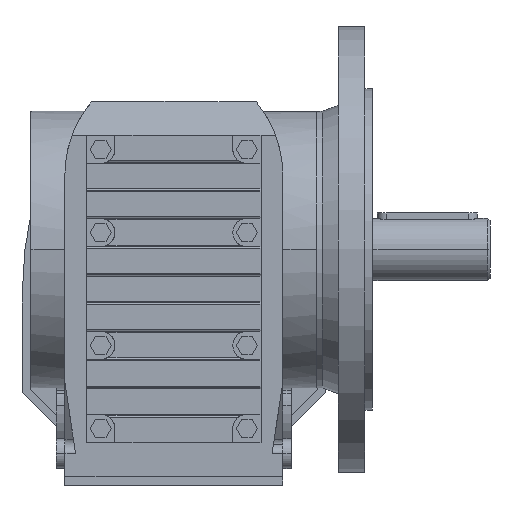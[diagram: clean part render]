
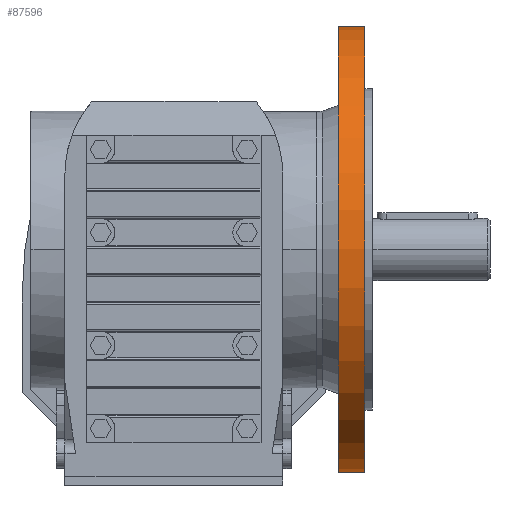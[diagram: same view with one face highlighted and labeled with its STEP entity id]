
A CAD part, top view. The second image highlights one B-rep face of the part: STEP entity #87596.
In plain terms, the highlighted cylindrical face has radius 125 mm (diameter 250 mm), a partial arc.
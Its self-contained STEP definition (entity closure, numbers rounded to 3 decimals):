
#86459 = PLANE('',#86460);
#86460 = AXIS2_PLACEMENT_3D('',#86461,#86462,#86463);
#86461 = CARTESIAN_POINT('',(107.,125.,0.));
#86462 = DIRECTION('',(-1.,0.,0.));
#86463 = DIRECTION('',(0.,-1.,0.));
#86533 = PLANE('',#86534);
#86534 = AXIS2_PLACEMENT_3D('',#86535,#86536,#86537);
#86535 = CARTESIAN_POINT('',(92.,80.776,0.));
#86536 = DIRECTION('',(1.,0.,0.));
#86537 = DIRECTION('',(0.,1.,0.));
#86935 = EDGE_CURVE('',#86936,#86938,#86940,.T.);
#86936 = VERTEX_POINT('',#86937);
#86937 = CARTESIAN_POINT('',(107.,-125.,0.));
#86938 = VERTEX_POINT('',#86939);
#86939 = CARTESIAN_POINT('',(107.,125.,0.));
#86940 = SURFACE_CURVE('',#86941,(#86946,#86953),.PCURVE_S1.);
#86941 = CIRCLE('',#86942,125.);
#86942 = AXIS2_PLACEMENT_3D('',#86943,#86944,#86945);
#86943 = CARTESIAN_POINT('',(107.,0.,0.));
#86944 = DIRECTION('',(-1.,0.,0.));
#86945 = DIRECTION('',(0.,-1.,0.));
#86946 = PCURVE('',#86459,#86947);
#86947 = DEFINITIONAL_REPRESENTATION('',(#86948),#86952);
#86948 = CIRCLE('',#86949,125.);
#86949 = AXIS2_PLACEMENT_2D('',#86950,#86951);
#86950 = CARTESIAN_POINT('',(125.,0.));
#86951 = DIRECTION('',(1.,0.));
#86952 = ( GEOMETRIC_REPRESENTATION_CONTEXT(2) 
PARAMETRIC_REPRESENTATION_CONTEXT() REPRESENTATION_CONTEXT('2D SPACE',''
  ) );
#86953 = PCURVE('',#86954,#86959);
#86954 = CYLINDRICAL_SURFACE('',#86955,125.);
#86955 = AXIS2_PLACEMENT_3D('',#86956,#86957,#86958);
#86956 = CARTESIAN_POINT('',(0.,0.,0.));
#86957 = DIRECTION('',(-1.,0.,0.));
#86958 = DIRECTION('',(0.,-1.,0.));
#86959 = DEFINITIONAL_REPRESENTATION('',(#86960),#86963);
#86960 = B_SPLINE_CURVE_WITH_KNOTS('',1,(#86961,#86962),.UNSPECIFIED.,
  .F.,.F.,(2,2),(0.,3.142),.PIECEWISE_BEZIER_KNOTS.);
#86961 = CARTESIAN_POINT('',(0.,-107.));
#86962 = CARTESIAN_POINT('',(3.142,-107.));
#86963 = ( GEOMETRIC_REPRESENTATION_CONTEXT(2) 
PARAMETRIC_REPRESENTATION_CONTEXT() REPRESENTATION_CONTEXT('2D SPACE',''
  ) );
#86980 = CYLINDRICAL_SURFACE('',#86981,125.);
#86981 = AXIS2_PLACEMENT_3D('',#86982,#86983,#86984);
#86982 = CARTESIAN_POINT('',(0.,0.,0.));
#86983 = DIRECTION('',(-1.,0.,0.));
#86984 = DIRECTION('',(0.,-1.,0.));
#87493 = EDGE_CURVE('',#87494,#87496,#87498,.T.);
#87494 = VERTEX_POINT('',#87495);
#87495 = CARTESIAN_POINT('',(92.,-125.,0.));
#87496 = VERTEX_POINT('',#87497);
#87497 = CARTESIAN_POINT('',(92.,125.,0.));
#87498 = SURFACE_CURVE('',#87499,(#87504,#87515),.PCURVE_S1.);
#87499 = CIRCLE('',#87500,125.);
#87500 = AXIS2_PLACEMENT_3D('',#87501,#87502,#87503);
#87501 = CARTESIAN_POINT('',(92.,0.,0.));
#87502 = DIRECTION('',(-1.,0.,0.));
#87503 = DIRECTION('',(0.,-1.,0.));
#87504 = PCURVE('',#86533,#87505);
#87505 = DEFINITIONAL_REPRESENTATION('',(#87506),#87514);
#87506 = ( BOUNDED_CURVE() B_SPLINE_CURVE(2,(#87507,#87508,#87509,#87510
    ,#87511,#87512,#87513),.UNSPECIFIED.,.T.,.F.) 
B_SPLINE_CURVE_WITH_KNOTS((1,2,2,2,2,1),(-2.094,0.,
    2.094,4.189,6.283,8.378),
.UNSPECIFIED.) CURVE() GEOMETRIC_REPRESENTATION_ITEM() 
RATIONAL_B_SPLINE_CURVE((1.,0.5,1.,0.5,1.,0.5,1.)) REPRESENTATION_ITEM(
  '') );
#87507 = CARTESIAN_POINT('',(-205.776,0.));
#87508 = CARTESIAN_POINT('',(-205.776,216.506));
#87509 = CARTESIAN_POINT('',(-18.276,108.253));
#87510 = CARTESIAN_POINT('',(169.224,0.));
#87511 = CARTESIAN_POINT('',(-18.276,-108.253));
#87512 = CARTESIAN_POINT('',(-205.776,-216.506));
#87513 = CARTESIAN_POINT('',(-205.776,0.));
#87514 = ( GEOMETRIC_REPRESENTATION_CONTEXT(2) 
PARAMETRIC_REPRESENTATION_CONTEXT() REPRESENTATION_CONTEXT('2D SPACE',''
  ) );
#87515 = PCURVE('',#86954,#87516);
#87516 = DEFINITIONAL_REPRESENTATION('',(#87517),#87520);
#87517 = B_SPLINE_CURVE_WITH_KNOTS('',1,(#87518,#87519),.UNSPECIFIED.,
  .F.,.F.,(2,2),(0.,3.142),.PIECEWISE_BEZIER_KNOTS.);
#87518 = CARTESIAN_POINT('',(0.,-92.));
#87519 = CARTESIAN_POINT('',(3.142,-92.));
#87520 = ( GEOMETRIC_REPRESENTATION_CONTEXT(2) 
PARAMETRIC_REPRESENTATION_CONTEXT() REPRESENTATION_CONTEXT('2D SPACE',''
  ) );
#87557 = EDGE_CURVE('',#86938,#87496,#87558,.T.);
#87558 = SURFACE_CURVE('',#87559,(#87563,#87569),.PCURVE_S1.);
#87559 = LINE('',#87560,#87561);
#87560 = CARTESIAN_POINT('',(0.,125.,0.
    ));
#87561 = VECTOR('',#87562,1.);
#87562 = DIRECTION('',(-1.,0.,0.));
#87563 = PCURVE('',#86980,#87564);
#87564 = DEFINITIONAL_REPRESENTATION('',(#87565),#87568);
#87565 = B_SPLINE_CURVE_WITH_KNOTS('',1,(#87566,#87567),.UNSPECIFIED.,
  .F.,.F.,(2,2),(-107.,-92.),.PIECEWISE_BEZIER_KNOTS.);
#87566 = CARTESIAN_POINT('',(3.142,-107.));
#87567 = CARTESIAN_POINT('',(3.142,-92.));
#87568 = ( GEOMETRIC_REPRESENTATION_CONTEXT(2) 
PARAMETRIC_REPRESENTATION_CONTEXT() REPRESENTATION_CONTEXT('2D SPACE',''
  ) );
#87569 = PCURVE('',#86954,#87570);
#87570 = DEFINITIONAL_REPRESENTATION('',(#87571),#87574);
#87571 = B_SPLINE_CURVE_WITH_KNOTS('',1,(#87572,#87573),.UNSPECIFIED.,
  .F.,.F.,(2,2),(-107.,-92.),.PIECEWISE_BEZIER_KNOTS.);
#87572 = CARTESIAN_POINT('',(3.142,-107.));
#87573 = CARTESIAN_POINT('',(3.142,-92.));
#87574 = ( GEOMETRIC_REPRESENTATION_CONTEXT(2) 
PARAMETRIC_REPRESENTATION_CONTEXT() REPRESENTATION_CONTEXT('2D SPACE',''
  ) );
#87577 = EDGE_CURVE('',#86936,#87494,#87578,.T.);
#87578 = SURFACE_CURVE('',#87579,(#87583,#87589),.PCURVE_S1.);
#87579 = LINE('',#87580,#87581);
#87580 = CARTESIAN_POINT('',(0.,-125.,0.));
#87581 = VECTOR('',#87582,1.);
#87582 = DIRECTION('',(-1.,0.,0.));
#87583 = PCURVE('',#86980,#87584);
#87584 = DEFINITIONAL_REPRESENTATION('',(#87585),#87588);
#87585 = B_SPLINE_CURVE_WITH_KNOTS('',1,(#87586,#87587),.UNSPECIFIED.,
  .F.,.F.,(2,2),(-107.,-92.),.PIECEWISE_BEZIER_KNOTS.);
#87586 = CARTESIAN_POINT('',(6.283,-107.));
#87587 = CARTESIAN_POINT('',(6.283,-92.));
#87588 = ( GEOMETRIC_REPRESENTATION_CONTEXT(2) 
PARAMETRIC_REPRESENTATION_CONTEXT() REPRESENTATION_CONTEXT('2D SPACE',''
  ) );
#87589 = PCURVE('',#86954,#87590);
#87590 = DEFINITIONAL_REPRESENTATION('',(#87591),#87594);
#87591 = B_SPLINE_CURVE_WITH_KNOTS('',1,(#87592,#87593),.UNSPECIFIED.,
  .F.,.F.,(2,2),(-107.,-92.),.PIECEWISE_BEZIER_KNOTS.);
#87592 = CARTESIAN_POINT('',(0.,-107.));
#87593 = CARTESIAN_POINT('',(0.,-92.));
#87594 = ( GEOMETRIC_REPRESENTATION_CONTEXT(2) 
PARAMETRIC_REPRESENTATION_CONTEXT() REPRESENTATION_CONTEXT('2D SPACE',''
  ) );
#87596 = ADVANCED_FACE('',(#87597),#86954,.T.);
#87597 = FACE_BOUND('',#87598,.T.);
#87598 = EDGE_LOOP('',(#87599,#87600,#87601,#87602));
#87599 = ORIENTED_EDGE('',*,*,#86935,.T.);
#87600 = ORIENTED_EDGE('',*,*,#87557,.T.);
#87601 = ORIENTED_EDGE('',*,*,#87493,.F.);
#87602 = ORIENTED_EDGE('',*,*,#87577,.F.);
